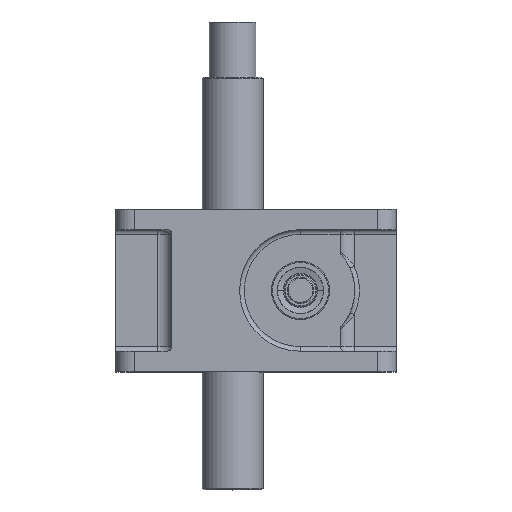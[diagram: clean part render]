
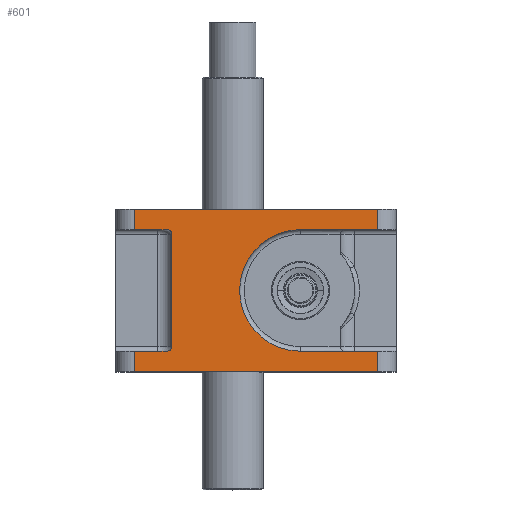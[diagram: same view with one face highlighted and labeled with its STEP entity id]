
A CAD part, top view. The second image highlights one B-rep face of the part: STEP entity #601.
In plain terms, the highlighted planar face has unit normal (0, 0, 1).
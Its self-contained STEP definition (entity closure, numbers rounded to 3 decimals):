
#591 = VERTEX_POINT ( 'NONE', #2834 ) ;
#592 = ORIENTED_EDGE ( 'NONE', *, *, #593, .T. ) ;
#593 = EDGE_CURVE ( 'NONE', #591, #594, #2833, .T. ) ;
#594 = VERTEX_POINT ( 'NONE', #2828 ) ;
#595 = ORIENTED_EDGE ( 'NONE', *, *, #596, .F. ) ;
#596 = EDGE_CURVE ( 'NONE', #597, #594, #2827, .T. ) ;
#597 = VERTEX_POINT ( 'NONE', #2891 ) ;
#598 = VERTEX_POINT ( 'NONE', #2890 ) ;
#601 = ADVANCED_FACE ( 'NONE', ( #2885 ), #2884, .F. ) ;
#602 = EDGE_LOOP ( 'NONE', ( #603, #607, #610, #671, #673, #676, #592, #595, #656, #658, #661, #664, #667, #642 ) ) ;
#603 = ORIENTED_EDGE ( 'NONE', *, *, #604, .F. ) ;
#604 = EDGE_CURVE ( 'NONE', #605, #606, #2878, .T. ) ;
#605 = VERTEX_POINT ( 'NONE', #2874 ) ;
#606 = VERTEX_POINT ( 'NONE', #2873 ) ;
#607 = ORIENTED_EDGE ( 'NONE', *, *, #608, .T. ) ;
#608 = EDGE_CURVE ( 'NONE', #605, #609, #2872, .T. ) ;
#609 = VERTEX_POINT ( 'NONE', #2868 ) ;
#610 = ORIENTED_EDGE ( 'NONE', *, *, #611, .F. ) ;
#611 = EDGE_CURVE ( 'NONE', #612, #609, #2867, .T. ) ;
#612 = VERTEX_POINT ( 'NONE', #2863 ) ;
#613 = VERTEX_POINT ( 'NONE', #2862 ) ;
#642 = ORIENTED_EDGE ( 'NONE', *, *, #643, .F. ) ;
#643 = EDGE_CURVE ( 'NONE', #606, #669, #2936, .T. ) ;
#656 = ORIENTED_EDGE ( 'NONE', *, *, #657, .T. ) ;
#657 = EDGE_CURVE ( 'NONE', #597, #598, #2969, .T. ) ;
#658 = ORIENTED_EDGE ( 'NONE', *, *, #659, .F. ) ;
#659 = EDGE_CURVE ( 'NONE', #660, #598, #2961, .T. ) ;
#660 = VERTEX_POINT ( 'NONE', #2957 ) ;
#661 = ORIENTED_EDGE ( 'NONE', *, *, #662, .T. ) ;
#662 = EDGE_CURVE ( 'NONE', #660, #663, #2956, .T. ) ;
#663 = VERTEX_POINT ( 'NONE', #3015 ) ;
#664 = ORIENTED_EDGE ( 'NONE', *, *, #665, .T. ) ;
#665 = EDGE_CURVE ( 'NONE', #663, #666, #3014, .T. ) ;
#666 = VERTEX_POINT ( 'NONE', #3010 ) ;
#667 = ORIENTED_EDGE ( 'NONE', *, *, #668, .F. ) ;
#668 = EDGE_CURVE ( 'NONE', #669, #666, #3009, .T. ) ;
#669 = VERTEX_POINT ( 'NONE', #3005 ) ;
#671 = ORIENTED_EDGE ( 'NONE', *, *, #672, .F. ) ;
#672 = EDGE_CURVE ( 'NONE', #613, #612, #3004, .T. ) ;
#673 = ORIENTED_EDGE ( 'NONE', *, *, #674, .T. ) ;
#674 = EDGE_CURVE ( 'NONE', #613, #675, #3000, .T. ) ;
#675 = VERTEX_POINT ( 'NONE', #2996 ) ;
#676 = ORIENTED_EDGE ( 'NONE', *, *, #677, .T. ) ;
#677 = EDGE_CURVE ( 'NONE', #675, #591, #2995, .T. ) ;
#2824 = DIRECTION ( 'NONE',  ( 0., 1., 0. ) ) ;
#2825 = VECTOR ( 'NONE', #2824, 1000. ) ;
#2826 = CARTESIAN_POINT ( 'NONE',  ( 2.596, 22., 48.48 ) ) ;
#2827 = LINE ( 'NONE', #2826, #2825 ) ;
#2828 = CARTESIAN_POINT ( 'NONE',  ( 2.596, 147., 48.48 ) ) ;
#2829 = DIRECTION ( 'NONE',  ( -1., 0., 0. ) ) ;
#2830 = DIRECTION ( 'NONE',  ( 0., 0., -1. ) ) ;
#2831 = CARTESIAN_POINT ( 'NONE',  ( -2.404, 147., 48.48 ) ) ;
#2832 = AXIS2_PLACEMENT_3D ( 'NONE', #2831, #2830, #2829 ) ;
#2833 = CIRCLE ( 'NONE', #2832, 5. ) ;
#2834 = CARTESIAN_POINT ( 'NONE',  ( -2.404, 152., 48.48 ) ) ;
#2862 = CARTESIAN_POINT ( 'NONE',  ( -37.404, 174., 48.48 ) ) ;
#2863 = CARTESIAN_POINT ( 'NONE',  ( 222.596, 174., 48.48 ) ) ;
#2864 = DIRECTION ( 'NONE',  ( 0., -1., 0. ) ) ;
#2865 = VECTOR ( 'NONE', #2864, 1000. ) ;
#2866 = CARTESIAN_POINT ( 'NONE',  ( 222.596, 174., 48.48 ) ) ;
#2867 = LINE ( 'NONE', #2866, #2865 ) ;
#2868 = CARTESIAN_POINT ( 'NONE',  ( 222.596, 152., 48.48 ) ) ;
#2869 = DIRECTION ( 'NONE',  ( 1., 0., 0. ) ) ;
#2870 = VECTOR ( 'NONE', #2869, 1000. ) ;
#2871 = CARTESIAN_POINT ( 'NONE',  ( 182.596, 152., 48.48 ) ) ;
#2872 = LINE ( 'NONE', #2871, #2870 ) ;
#2873 = CARTESIAN_POINT ( 'NONE',  ( 140.096, 22., 48.48 ) ) ;
#2874 = CARTESIAN_POINT ( 'NONE',  ( 140.096, 152., 48.48 ) ) ;
#2875 = DIRECTION ( 'NONE',  ( 1., 0., 0. ) ) ;
#2876 = DIRECTION ( 'NONE',  ( 0., 0., 1. ) ) ;
#2877 = AXIS2_PLACEMENT_3D ( 'NONE', #2882, #2876, #2875 ) ;
#2878 = CIRCLE ( 'NONE', #2877, 65. ) ;
#2879 = DIRECTION ( 'NONE',  ( -1., 0., 0. ) ) ;
#2880 = DIRECTION ( 'NONE',  ( 0., 0., -1. ) ) ;
#2881 = AXIS2_PLACEMENT_3D ( 'NONE', #2883, #2880, #2879 ) ;
#2882 = CARTESIAN_POINT ( 'NONE',  ( 140.096, 87., 48.48 ) ) ;
#2883 = CARTESIAN_POINT ( 'NONE',  ( 222.596, 174., 48.48 ) ) ;
#2884 = PLANE ( 'NONE',  #2881 ) ;
#2885 = FACE_OUTER_BOUND ( 'NONE', #602, .T. ) ;
#2890 = CARTESIAN_POINT ( 'NONE',  ( -2.404, 22., 48.48 ) ) ;
#2891 = CARTESIAN_POINT ( 'NONE',  ( 2.596, 27., 48.48 ) ) ;
#2933 = DIRECTION ( 'NONE',  ( 1., 0., 0. ) ) ;
#2934 = VECTOR ( 'NONE', #2933, 1000. ) ;
#2935 = CARTESIAN_POINT ( 'NONE',  ( 182.596, 22., 48.48 ) ) ;
#2936 = LINE ( 'NONE', #2935, #2934 ) ;
#2954 = VECTOR ( 'NONE', #3016, 1000. ) ;
#2955 = CARTESIAN_POINT ( 'NONE',  ( -37.404, 174., 48.48 ) ) ;
#2956 = LINE ( 'NONE', #2955, #2954 ) ;
#2957 = CARTESIAN_POINT ( 'NONE',  ( -37.404, 22., 48.48 ) ) ;
#2958 = DIRECTION ( 'NONE',  ( 1., 0., 0. ) ) ;
#2959 = VECTOR ( 'NONE', #2958, 1000. ) ;
#2960 = CARTESIAN_POINT ( 'NONE',  ( 2.596, 22., 48.48 ) ) ;
#2961 = LINE ( 'NONE', #2960, #2959 ) ;
#2962 = DIRECTION ( 'NONE',  ( -1., 0., 0. ) ) ;
#2963 = DIRECTION ( 'NONE',  ( 0., 0., -1. ) ) ;
#2964 = CARTESIAN_POINT ( 'NONE',  ( -2.404, 27., 48.48 ) ) ;
#2965 = AXIS2_PLACEMENT_3D ( 'NONE', #2964, #2963, #2962 ) ;
#2969 = CIRCLE ( 'NONE', #2965, 5. ) ;
#2992 = DIRECTION ( 'NONE',  ( 1., 0., 0. ) ) ;
#2993 = VECTOR ( 'NONE', #2992, 1000. ) ;
#2994 = CARTESIAN_POINT ( 'NONE',  ( 2.596, 152., 48.48 ) ) ;
#2995 = LINE ( 'NONE', #2994, #2993 ) ;
#2996 = CARTESIAN_POINT ( 'NONE',  ( -37.404, 152., 48.48 ) ) ;
#2997 = DIRECTION ( 'NONE',  ( 0., -1., 0. ) ) ;
#2998 = VECTOR ( 'NONE', #2997, 1000. ) ;
#2999 = CARTESIAN_POINT ( 'NONE',  ( -37.404, 174., 48.48 ) ) ;
#3000 = LINE ( 'NONE', #2999, #2998 ) ;
#3001 = DIRECTION ( 'NONE',  ( 1., 0., 0. ) ) ;
#3002 = VECTOR ( 'NONE', #3001, 1000. ) ;
#3003 = CARTESIAN_POINT ( 'NONE',  ( 222.596, 174., 48.48 ) ) ;
#3004 = LINE ( 'NONE', #3003, #3002 ) ;
#3005 = CARTESIAN_POINT ( 'NONE',  ( 222.596, 22., 48.48 ) ) ;
#3006 = DIRECTION ( 'NONE',  ( 0., -1., 0. ) ) ;
#3007 = VECTOR ( 'NONE', #3006, 1000. ) ;
#3008 = CARTESIAN_POINT ( 'NONE',  ( 222.596, 174., 48.48 ) ) ;
#3009 = LINE ( 'NONE', #3008, #3007 ) ;
#3010 = CARTESIAN_POINT ( 'NONE',  ( 222.596, 0., 48.48 ) ) ;
#3011 = DIRECTION ( 'NONE',  ( 1., 0., 0. ) ) ;
#3012 = VECTOR ( 'NONE', #3011, 1000. ) ;
#3013 = CARTESIAN_POINT ( 'NONE',  ( 222.596, 0., 48.48 ) ) ;
#3014 = LINE ( 'NONE', #3013, #3012 ) ;
#3015 = CARTESIAN_POINT ( 'NONE',  ( -37.404, 0., 48.48 ) ) ;
#3016 = DIRECTION ( 'NONE',  ( 0., -1., 0. ) ) ;
